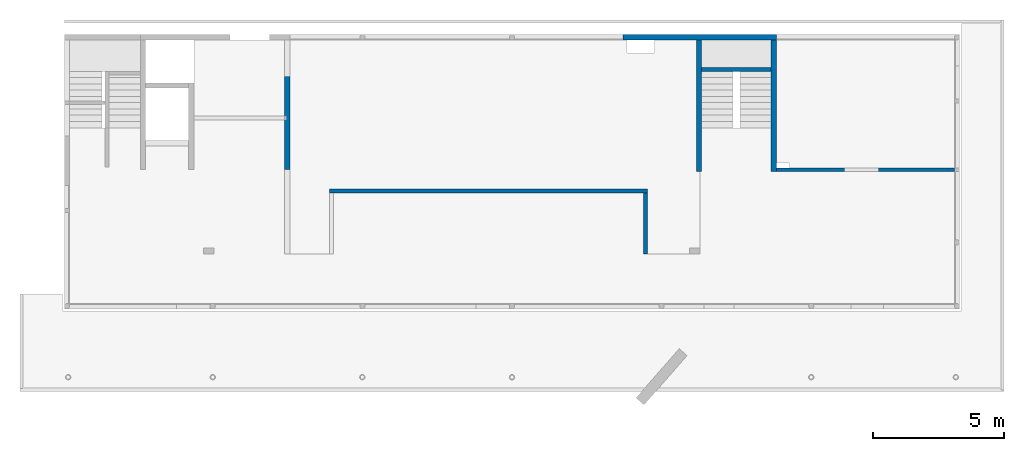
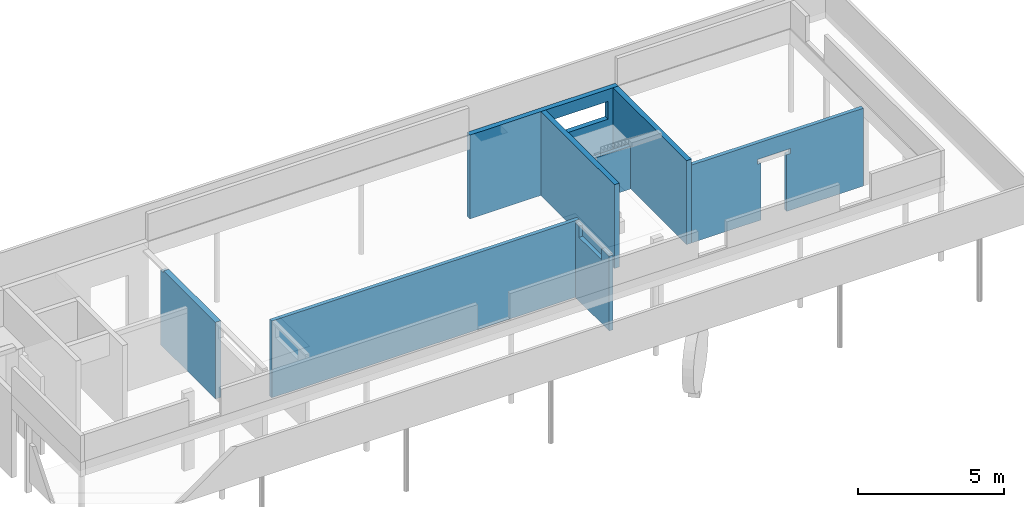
# One storey, part 4 of 5: 8 walls, 3 openings.
"""IFC4 building model written with IfcOpenShell, lengths in metres."""

from ifc_helpers import new_model, entity, si_unit, converted_unit, derived_unit, frame, frame_2d, origin, origin_with_axes, place, context, subcontext, project, spatial, polyline, rectangle, outline, extrude, clip, bounded_halfspace, faceted_brep, material, element, save


model = new_model("IFC4")

# Units and contexts
model_context = context("Model", 3, precision=1e-05, world=origin())
plan_context = context("Plan", 2, precision=1e-05, world=origin())
body_context = subcontext(model_context, "Body", "Model", "MODEL_VIEW")
ifc_project = project(units=[si_unit("LENGTHUNIT", "METRE"), si_unit("AREAUNIT", "SQUARE_METRE"), si_unit("VOLUMEUNIT", "CUBIC_METRE"), si_unit("MASSUNIT", "GRAM", prefix="KILO"), converted_unit("PLANEANGLEUNIT", "DEGREE", entity("IfcPlaneAngleMeasure", 0.0174532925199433), si_unit("PLANEANGLEUNIT", "RADIAN"), dimensions=[0, 0, 0, 0, 0, 0, 0]), derived_unit("THERMALTRANSMITTANCEUNIT", [(si_unit("POWERUNIT", "WATT"), 1), (si_unit("THERMODYNAMICTEMPERATUREUNIT", "KELVIN"), -1), (si_unit("LENGTHUNIT", "METRE"), -2)]), derived_unit("VOLUMETRICFLOWRATEUNIT", [(si_unit("LENGTHUNIT", "METRE"), 3), (converted_unit("TIMEUNIT", "hour", entity("IfcTimeMeasure", 3600.0), si_unit("TIMEUNIT", "SECOND"), dimensions=[0, 0, 1, 0, 0, 0, 0]), -1), (si_unit("LENGTHUNIT", "METRE"), -1)])], contexts=[model_context, plan_context])

# Site, building, storey
site_placement = place(None, origin())
site = spatial("IfcSite", under=ifc_project, at=site_placement, Name="Site", CompositionType="ELEMENT")
building_placement = place(site_placement, origin())
building = spatial("IfcBuilding", under=site, at=building_placement, Name="Admin", CompositionType="ELEMENT")
storey_placement = place(building_placement, frame((0.0, 0.0, -0.26)))
storey = spatial("IfcBuildingStorey", under=building, at=storey_placement, Name="00-Rez", CompositionType="ELEMENT", Elevation=-0.26)

# Walls
ifc_material_1 = material(Name="C30/37")
wall_1_placement = place(storey_placement, frame((48.3598001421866, 17.1094493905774, -2.27373675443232e-16), z_axis=(0.0, 0.0, 1.0), x_axis=(0.0, 1.0, 0.0)))
element("IfcWall", 1, at=wall_1_placement, inside=storey, material=ifc_material_1, Name="Voile BA Esc. RDC", context=body_context, shape_type="SweptSolid", body=[
    extrude(rectangle(XDim=5.04000000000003, YDim=0.2, at=frame_2d((2.52000000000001, 0.1), x_axis=(1.0, 0.0))), origin_with_axes(), (0.0, 0.0, 1.0), 3.51),
])
ifc_material_2 = material(Name="C30/37")
wall_2_placement = place(storey_placement, frame((51.2198001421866, 17.1094493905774, -2.27373675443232e-16), z_axis=(0.0, 0.0, 1.0), x_axis=(0.0, 1.0, 0.0)))
element("IfcWall", 2, at=wall_2_placement, inside=storey, material=ifc_material_2, Name="Voile BA Esc. RDC", context=body_context, shape_type="SweptSolid", body=[
    extrude(rectangle(XDim=5.04, YDim=0.2, at=frame_2d((2.52, 0.1), x_axis=(1.0, 0.0))), origin_with_axes(), (0.0, 0.0, 1.0), 3.51),
])
ifc_material_3 = material(Name="Silico-calcaire 15 cm")
wall_3_placement = place(storey_placement, frame((51.0198001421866, 21.0994493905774, 0.0), z_axis=(0.0, 0.0, 1.0), x_axis=(-1.0, 0.0, 0.0)))
element("IfcWall", 3, at=wall_3_placement, inside=storey, material=ifc_material_3, Name="Maçonnerie Admin.", context=body_context, shape_type="SweptSolid", body=[
    extrude(rectangle(XDim=2.66, YDim=0.149999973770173, at=frame_2d((1.33, 0.0749999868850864), x_axis=(1.0, 0.0))), origin_with_axes(), (0.0, 0.0, 1.0), 1.79518373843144),
])

# Wall, opening
ifc_material_4 = material(Name="Silico-calcaire 15 cm")
wall_4_placement = place(storey_placement, frame((51.2198001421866, 17.1094493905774, 0.0)))
wall_4 = element("IfcWall", 4, at=wall_4_placement, inside=storey, material=ifc_material_4, Name="Maçonnerie Admin.", context=body_context, shape_type="Brep", body=[
    faceted_brep([(2.60000414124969, 0.0, 2.58), (3.90999954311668, 0.0, 2.58), (3.90999954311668, 0.15, 2.58), (2.60000414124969, 0.15, 2.58), (2.60000414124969, 0.15, 2.38), (3.90999954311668, 0.15, 2.38), (3.90999954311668, 0.0, 2.38), (2.60000414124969, 0.0, 2.38), (-7.27595761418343e-15, 0.15, 0.0), (6.79999954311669, 0.15, 0.0), (6.79999954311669, 0.15, 3.26), (-7.27595761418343e-15, 0.15, 3.26), (6.79999954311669, 0.0, 0.0), (6.79999954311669, 0.0, 3.26), (-7.27595761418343e-15, 0.0, 0.0), (-7.27595761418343e-15, 0.0, 3.26)], [[[0, 1, 2, 3]], [[4, 5, 6, 7]], [[3, 4, 7, 0]], [[1, 6, 5, 2]], [[8, 9, 10, 11], [4, 3, 2, 5]], [[9, 12, 13, 10]], [[12, 14, 15, 13], [6, 1, 0, 7]], [[14, 8, 11, 15]], [[15, 11, 10, 13]], [[8, 14, 12, 9]]], orient=[[False], [False], [False], [False], [False, False], [False], [False, False], [False], [False], [False]]),
])
opening_1_placement = place(wall_4_placement, frame((2.75000414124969, 0.0, 0.0), z_axis=(0.0, 1.0, 0.0), x_axis=(0.0, 0.0, 1.0)))
element("IfcOpeningElement", 5, at=opening_1_placement, cuts=wall_4, Name="Baie de porte", ObjectType="Opening", context=body_context, shape_type="SweptSolid", body=[
    extrude(outline(polyline([(0.0, 1.009995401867), (2.38, 1.009995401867), (2.38, 0.0), (0.0, 0.0), (0.0, 1.009995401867)])), origin_with_axes(), (0.0, 0.0, 1.0), 0.15),
])

ifc_material_5 = material(Name="Silico-calcaire 15 cm")
wall_5_placement = place(storey_placement, frame((46.1398001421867, 16.2894493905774, 0.0), z_axis=(0.0, 0.0, 1.0), x_axis=(0.0, -1.0, 0.0)))
wall_5 = element("IfcWall", 6, at=wall_5_placement, inside=storey, material=ifc_material_5, Name="Maçonnerie Admin.", context=body_context, shape_type="SweptSolid", body=[
    extrude(rectangle(XDim=2.31944939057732, YDim=0.15, at=frame_2d((1.15972469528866, 0.075), x_axis=(1.0, 0.0))), origin_with_axes(), (0.0, 0.0, 1.0), 3.13),
])
opening_2_placement = place(wall_5_placement, frame((0.250000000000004, 0.0, 2.66), z_axis=(0.0, 1.0, 0.0), x_axis=(0.0, 0.0, 1.0)))
element("IfcOpeningElement", 7, at=opening_2_placement, cuts=wall_5, Name="Percement dans mur", ObjectType="Opening", context=body_context, shape_type="SweptSolid", body=[
    extrude(outline(polyline([(0.0, 1.55), (0.47, 1.55), (0.47, 0.0), (0.0, 0.0), (0.0, 1.55)])), origin_with_axes(), (0.0, 0.0, 1.0), 0.15),
])

# Walls
ifc_material_6 = material(Name="Silico-calcaire 15 cm")
wall_6_placement = place(storey_placement, frame((46.2898001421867, 16.4394493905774, 0.0), z_axis=(0.0, 0.0, 1.0), x_axis=(-0.999999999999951, 3.1186474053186e-07, 0.0)))
element("IfcWall", 8, at=wall_6_placement, inside=storey, material=ifc_material_6, Name="Maçonnerie Admin.", context=body_context, shape_type="SweptSolid", body=[
    extrude(rectangle(XDim=12.1599817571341, YDim=0.149999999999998, at=frame_2d((6.07999087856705, 0.0749999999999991), x_axis=(1.0, 0.0))), origin_with_axes(), (0.0, 0.0, 1.0), 3.21),
])
ifc_material_7 = material(Name="Silico-calcaire 21,4 cm")
wall_7_placement = place(storey_placement, frame((32.6298197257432, 17.1894528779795, 0.0), z_axis=(0.0, 0.0, 1.0), x_axis=(0.0, 1.0, 0.0)))
element("IfcWall", 9, at=wall_7_placement, inside=storey, material=ifc_material_7, Name="Maçonnerie Admin.", context=body_context, shape_type="Clipping", body=[
    clip(extrude(rectangle(XDim=3.76, YDim=0.214, at=frame_2d((1.88, 0.107), x_axis=(1.0, 0.0))), origin_with_axes(), (0.0, 0.0, 1.0), 3.21), bounded_halfspace(frame((3.66, 0.107, 3.13), z_axis=(0.0, 0.0, -1.0), x_axis=(0.0, 1.0, 0.0)), True, origin_with_axes(), polyline([(3.76, 0.0), (3.76, 0.214), (3.56, 0.214), (3.56, 0.0), (3.76, 0.0)]))),
])

# Wall, opening
ifc_material_8 = material(Name="C30/37")
wall_8_placement = place(storey_placement, frame((51.2198001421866, 22.3494493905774, -2.27373675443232e-16), z_axis=(0.0, 0.0, 1.0), x_axis=(-1.0, 0.0, 0.0)))
wall_8 = element("IfcWall", 10, at=wall_8_placement, inside=storey, material=ifc_material_8, Name="Voile BA Axe 2.6", context=body_context, shape_type="SweptSolid", body=[
    extrude(rectangle(XDim=5.86999999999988, YDim=0.2, at=frame_2d((2.93499999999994, 0.1), x_axis=(1.0, 0.0))), origin_with_axes(), (0.0, 0.0, 1.0), 3.51),
])
opening_3_placement = place(wall_8_placement, frame((2.6, 0.2, 2.26), z_axis=(0.0, -1.0, 0.0), x_axis=(0.0, 0.0, 1.0)))
element("IfcOpeningElement", 11, at=opening_3_placement, cuts=wall_8, Name="Baie de fenêtre", ObjectType="Opening", context=body_context, shape_type="SweptSolid", body=[
    extrude(outline(polyline([(0.0, 2.2), (0.75, 2.2), (0.75, 0.0), (0.0, 0.0), (0.0, 2.2)])), origin_with_axes(), (0.0, 0.0, 1.0), 0.2),
])

save(model, "model.ifc")
